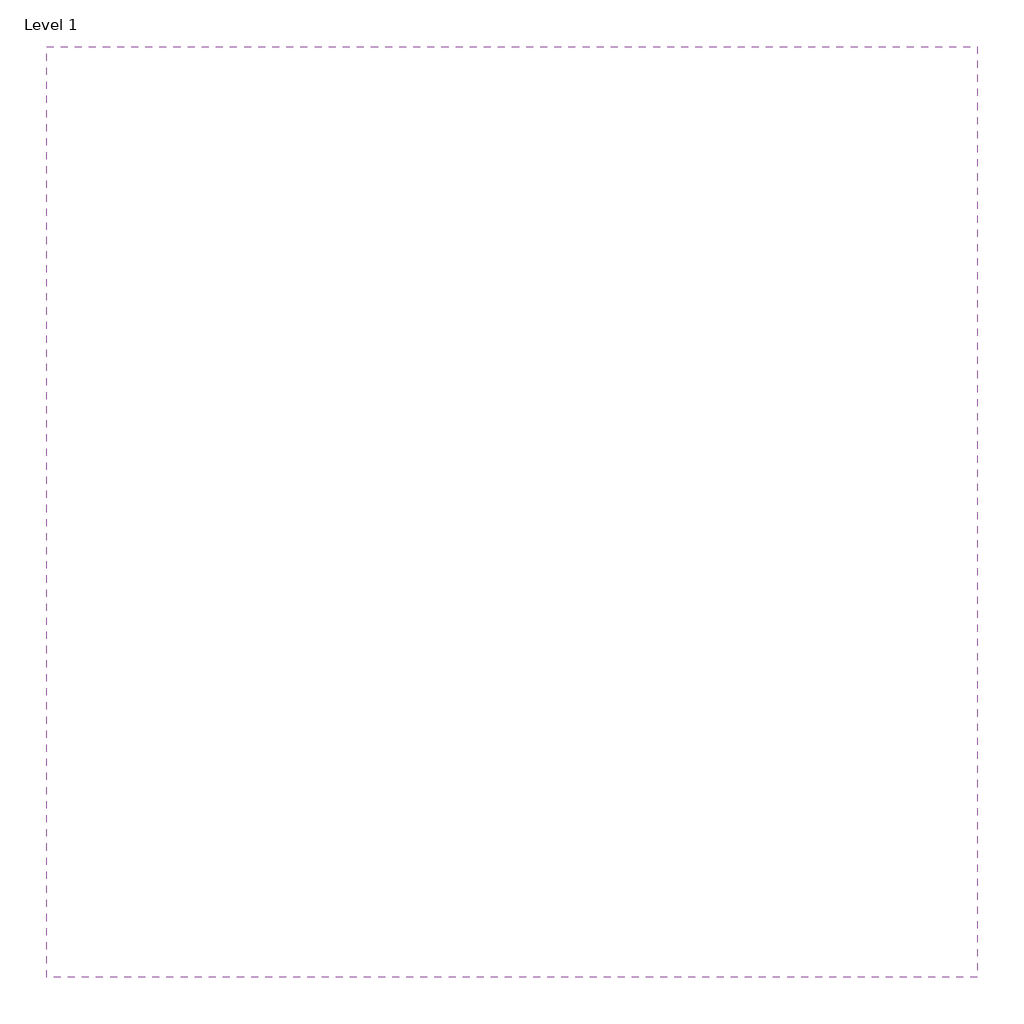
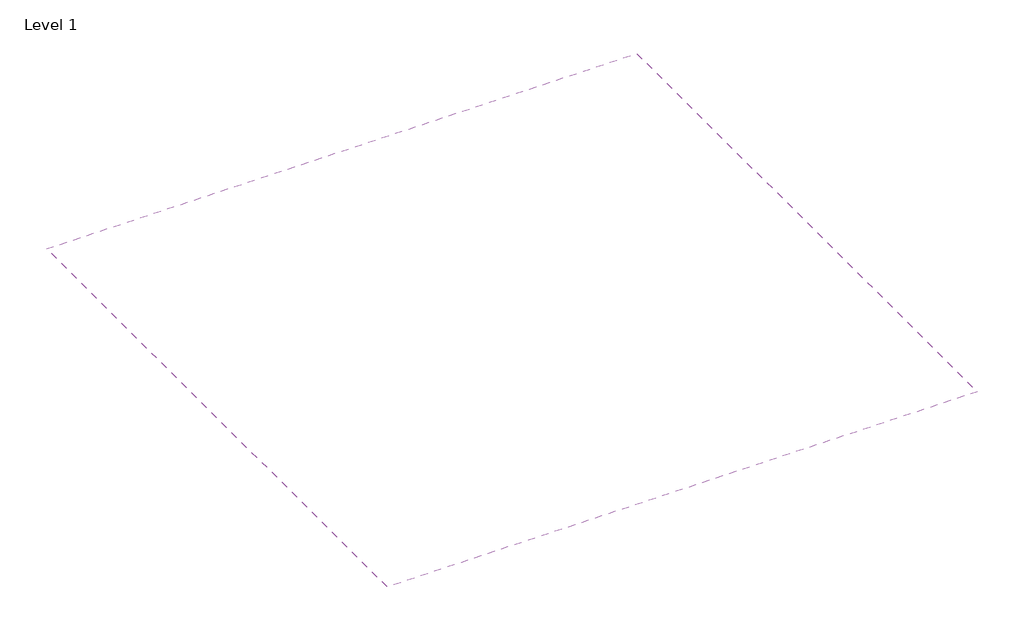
# One storey: 1 covering.
"""IFC4 building model written with IfcOpenShell, lengths in millimetres."""

from ifc_helpers import new_model, si_unit, frame, origin, place, context, project, spatial, polyline, outline, extrude, element, save

model = new_model("IFC4")

# Units and contexts
model_context = context("Model", 3, world=origin())
ifc_project = project(units=[si_unit("LENGTHUNIT", "METRE", prefix="MILLI")], contexts=[model_context])

# Site, building, storey
site = spatial("IfcSite", under=ifc_project)
building = spatial("IfcBuilding", under=site)
storey = spatial("IfcBuildingStorey", under=building, Name="Level 1", Elevation=0.0)

# Covering
placement = place(None, origin())
element("IfcCovering", 1, ObjectType="Ceiling-600x600-Armstrong_World_Ltd-Dune_Supreme-BP2271M", at=placement, inside=storey, context=model_context, shape_type="SweptSolid", body=[
    extrude(outline(polyline([(-34271.7435003, 73284.0607123), (-34271.7435003, 72084.0607123), (-35471.7435003, 72084.0607123), (-35471.7435003, 73284.0607123), (-34271.7435003, 73284.0607123)])), frame((0.0, 0.0, 2438.4), z_axis=(0.0, 0.0, 1.0), x_axis=(1.0, 0.0, 0.0)), (0.0, 0.0, 1.0), 15.0),
])

save(model, "model.ifc")
